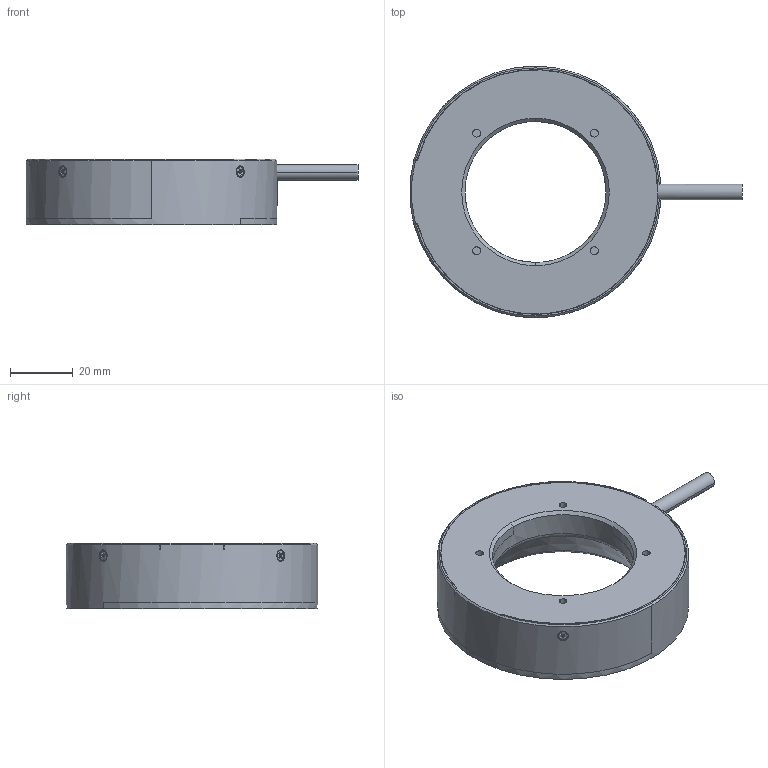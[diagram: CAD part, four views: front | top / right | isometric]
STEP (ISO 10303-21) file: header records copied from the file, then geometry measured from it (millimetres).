
FILE_DESCRIPTION((''),'2;1');
FILE_NAME('MV-LRDS-H-80-30-W','2022-09-02T14:25:49',('qiaoxuan5'),(''),'CREO PARAMETRIC BY PTC INC, 2020044','CREO PARAMETRIC BY PTC INC, 2020044','');
FILE_SCHEMA(('CONFIG_CONTROL_DESIGN'));
Length unit declared in the file: metre
Products named in the file (1): MV-LRDS-H-80-30-W
Bounding box: 105.68 x 80 x 21 mm (x, y, z)
Volume: 65599.1 mm3; surface area: 16247.7 mm2
Topology: 1 solids, 18 shells, 476 faces, 1153 edges, 717 vertices
Faces by surface type: plane 284, cylinder 132, cone 56, torus 4
Entity records: 14529 total; most frequent: CARTESIAN_POINT 3401, ORIENTED_EDGE 2298, DIRECTION 2276, EDGE_CURVE 1149, AXIS2_PLACEMENT_3D 773, VECTOR 730, LINE 730, VERTEX_POINT 717
